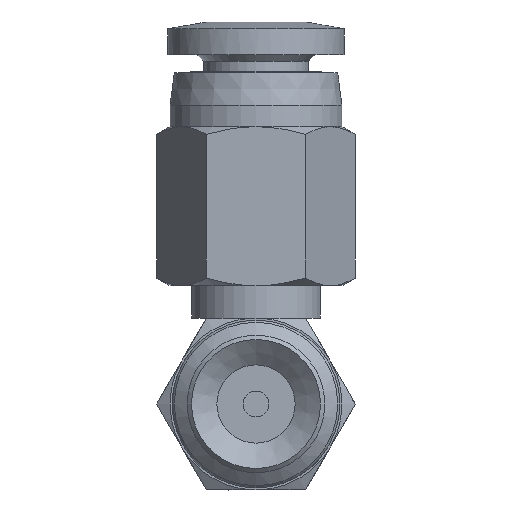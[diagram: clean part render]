
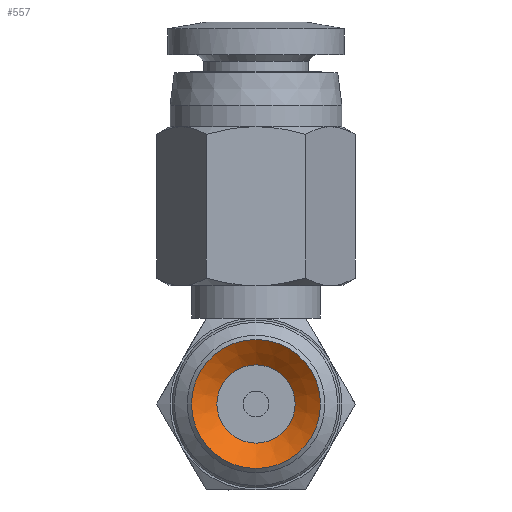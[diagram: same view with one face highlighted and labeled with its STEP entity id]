
A CAD part, front view. The second image highlights one B-rep face of the part: STEP entity #557.
In plain terms, the highlighted conical face has half-angle 52 degrees and reference radius 1.82 mm.
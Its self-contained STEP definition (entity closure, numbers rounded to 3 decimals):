
#557=ADVANCED_FACE('',(#866,#867),#868,.F.);
#866=FACE_BOUND('',#1266,.T.);
#867=FACE_OUTER_BOUND('',#1267,.T.);
#868=CONICAL_SURFACE('',#1268,1.82,0.908);
#1266=EDGE_LOOP('',(#2300));
#1267=EDGE_LOOP('',(#2301));
#1268=AXIS2_PLACEMENT_3D('',#2302,#2303,#2304);
#2300=ORIENTED_EDGE('',*,*,#2840,.F.);
#2301=ORIENTED_EDGE('',*,*,#2842,.T.);
#2302=CARTESIAN_POINT('',(0.0,6.889,0.0));
#2303=DIRECTION('',(-0.0,-1.0,0.));
#2304=DIRECTION('',(0.0,0.,-1.0));
#2840=EDGE_CURVE('',#3245,#3245,#3246,.T.);
#2842=EDGE_CURVE('',#3249,#3249,#3250,.T.);
#3245=VERTEX_POINT('',#4089);
#3246=CIRCLE('',#4090,1.82);
#3249=VERTEX_POINT('',#4093);
#3250=CIRCLE('',#4094,3.0);
#4089=CARTESIAN_POINT('',(0.0,6.889,-1.82));
#4090=AXIS2_PLACEMENT_3D('',#4800,#4801,#4802);
#4093=CARTESIAN_POINT('',(0.0,5.967,-3.0));
#4094=AXIS2_PLACEMENT_3D('',#4806,#4807,#4808);
#4800=CARTESIAN_POINT('',(0.0,6.889,0.0));
#4801=DIRECTION('',(0.0,-1.0,0.));
#4802=DIRECTION('',(0.0,0.,-1.0));
#4806=CARTESIAN_POINT('',(0.0,5.967,0.0));
#4807=DIRECTION('',(0.0,-1.0,0.));
#4808=DIRECTION('',(0.0,0.,-1.0));
